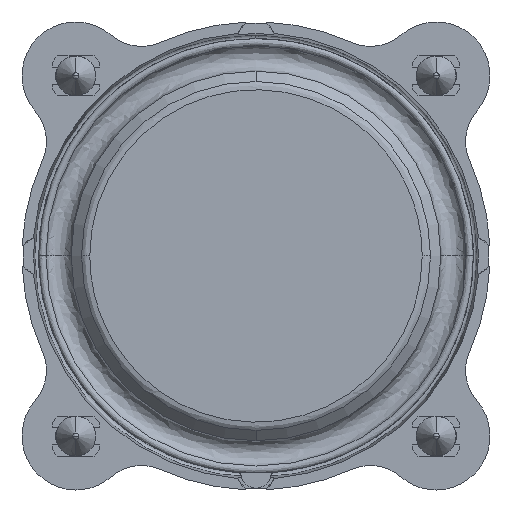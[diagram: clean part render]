
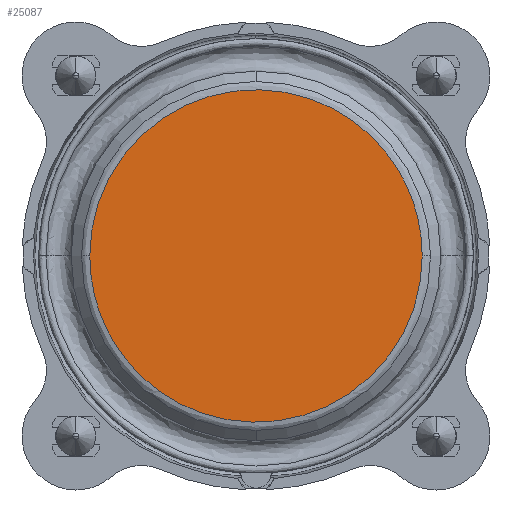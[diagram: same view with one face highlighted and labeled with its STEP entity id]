
A CAD part, front view. The second image highlights one B-rep face of the part: STEP entity #25087.
In plain terms, the highlighted planar face has unit normal (0, -1, 0).
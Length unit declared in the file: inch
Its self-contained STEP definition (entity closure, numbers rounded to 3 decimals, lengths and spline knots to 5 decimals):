
#3672 = CARTESIAN_POINT ( 'NONE',  ( -0.44884, -0.50182, 0. ) ) ;
#3860 = CARTESIAN_POINT ( 'NONE',  ( 0.44884, -0.50182, 0. ) ) ;
#3884 =( BOUNDED_CURVE ( )  B_SPLINE_CURVE ( 3, ( #21890, #21889, #21888, #21887 ),
 .UNSPECIFIED., .F., .F. ) 
 B_SPLINE_CURVE_WITH_KNOTS ( ( 4, 4 ),
 ( 0., 1. ),
 .UNSPECIFIED. ) 
 CURVE ( )  GEOMETRIC_REPRESENTATION_ITEM ( )  RATIONAL_B_SPLINE_CURVE ( ( 0.978, 0.326, 0.326, 0.978 ) ) 
 REPRESENTATION_ITEM ( '' )  );
#3932 = CARTESIAN_POINT ( 'NONE',  ( -0.44884, -0.50182, -0.89768 ) ) ;
#4021 =( BOUNDED_CURVE ( )  B_SPLINE_CURVE ( 3, ( #3860, #4069, #3932, #3672 ),
 .UNSPECIFIED., .F., .F. ) 
 B_SPLINE_CURVE_WITH_KNOTS ( ( 4, 4 ),
 ( 0., 1. ),
 .UNSPECIFIED. ) 
 CURVE ( )  GEOMETRIC_REPRESENTATION_ITEM ( )  RATIONAL_B_SPLINE_CURVE ( ( 0.978, 0.326, 0.326, 0.978 ) ) 
 REPRESENTATION_ITEM ( '' )  );
#4069 = CARTESIAN_POINT ( 'NONE',  ( 0.44884, -0.50182, -0.89768 ) ) ;
#12759 = PLANE ( 'NONE',  #33628 ) ;
#12782 = CARTESIAN_POINT ( 'NONE',  ( 0.45423, -0.50182, -0.45423 ) ) ;
#12817 = DIRECTION ( 'NONE',  ( 0., 1., 0. ) ) ;
#12835 = DIRECTION ( 'NONE',  ( -1., 0., 0. ) ) ;
#14227 = EDGE_LOOP ( 'NONE', ( #39884, #39886 ) ) ;
#21887 = CARTESIAN_POINT ( 'NONE',  ( 0.44884, -0.50182, 0. ) ) ;
#21888 = CARTESIAN_POINT ( 'NONE',  ( 0.44884, -0.50182, 0.89769 ) ) ;
#21889 = CARTESIAN_POINT ( 'NONE',  ( -0.44884, -0.50182, 0.89769 ) ) ;
#21890 = CARTESIAN_POINT ( 'NONE',  ( -0.44884, -0.50182, 0. ) ) ;
#25087 = ADVANCED_FACE ( 'NONE', ( #33606 ), #12759, .F. ) ;
#25832 = EDGE_CURVE ( 'NONE', #44375, #44366, #3884, .T. ) ;
#25859 = EDGE_CURVE ( 'NONE', #44366, #44375, #4021, .T. ) ;
#33606 = FACE_OUTER_BOUND ( 'NONE', #14227, .T. ) ;
#33628 = AXIS2_PLACEMENT_3D ( 'NONE', #12782, #12817, #12835 ) ;
#35756 = CARTESIAN_POINT ( 'NONE',  ( -0.44884, -0.50182, 0. ) ) ;
#35765 = CARTESIAN_POINT ( 'NONE',  ( 0.44884, -0.50182, 0. ) ) ;
#39884 = ORIENTED_EDGE ( 'NONE', *, *, #25859, .F. ) ;
#39886 = ORIENTED_EDGE ( 'NONE', *, *, #25832, .F. ) ;
#44366 = VERTEX_POINT ( 'NONE', #35765 ) ;
#44375 = VERTEX_POINT ( 'NONE', #35756 ) ;
